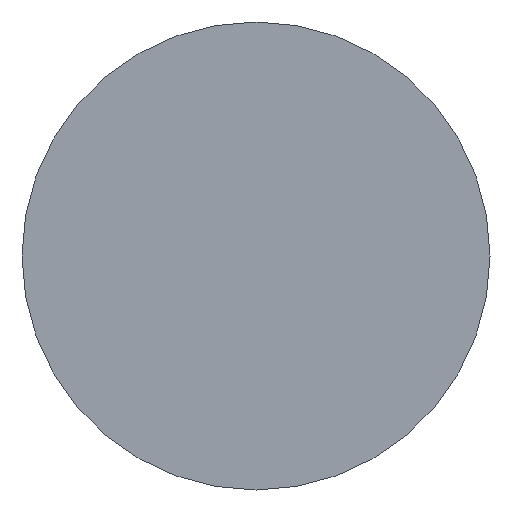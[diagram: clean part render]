
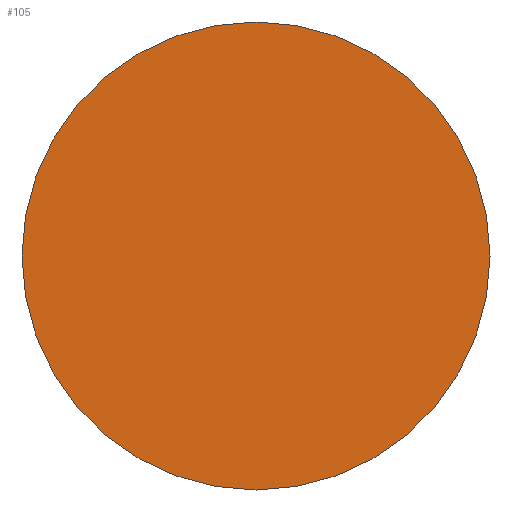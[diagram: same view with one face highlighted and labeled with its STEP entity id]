
A CAD part, front view. The second image highlights one B-rep face of the part: STEP entity #105.
In plain terms, the highlighted planar face has unit normal (0, -1, 0).
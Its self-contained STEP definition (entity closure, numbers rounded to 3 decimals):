
#22 = VERTEX_POINT('',#23);
#23 = CARTESIAN_POINT('',(19.,-13.2,36.));
#32 = CYLINDRICAL_SURFACE('',#33,19.);
#33 = AXIS2_PLACEMENT_3D('',#34,#35,#36);
#34 = CARTESIAN_POINT('',(0.,-13.2,36.));
#35 = DIRECTION('',(0.,-1.,-0.));
#36 = DIRECTION('',(1.,0.,0.));
#79 = EDGE_CURVE('',#22,#22,#80,.T.);
#80 = SURFACE_CURVE('',#81,(#86,#93),.PCURVE_S1.);
#81 = CIRCLE('',#82,19.);
#82 = AXIS2_PLACEMENT_3D('',#83,#84,#85);
#83 = CARTESIAN_POINT('',(0.,-13.2,36.));
#84 = DIRECTION('',(-0.,1.,0.));
#85 = DIRECTION('',(1.,0.,0.));
#86 = PCURVE('',#32,#87);
#87 = DEFINITIONAL_REPRESENTATION('',(#88),#92);
#88 = LINE('',#89,#90);
#89 = CARTESIAN_POINT('',(-0.,0.));
#90 = VECTOR('',#91,1.);
#91 = DIRECTION('',(-1.,0.));
#92 = ( GEOMETRIC_REPRESENTATION_CONTEXT(2) 
PARAMETRIC_REPRESENTATION_CONTEXT() REPRESENTATION_CONTEXT('2D SPACE',''
  ) );
#93 = PCURVE('',#94,#99);
#94 = PLANE('',#95);
#95 = AXIS2_PLACEMENT_3D('',#96,#97,#98);
#96 = CARTESIAN_POINT('',(0.,-13.2,36.));
#97 = DIRECTION('',(0.,1.,0.));
#98 = DIRECTION('',(1.,0.,0.));
#99 = DEFINITIONAL_REPRESENTATION('',(#100),#104);
#100 = CIRCLE('',#101,19.);
#101 = AXIS2_PLACEMENT_2D('',#102,#103);
#102 = CARTESIAN_POINT('',(0.,0.));
#103 = DIRECTION('',(1.,0.));
#104 = ( GEOMETRIC_REPRESENTATION_CONTEXT(2) 
PARAMETRIC_REPRESENTATION_CONTEXT() REPRESENTATION_CONTEXT('2D SPACE',''
  ) );
#105 = ADVANCED_FACE('',(#106),#94,.F.);
#106 = FACE_BOUND('',#107,.F.);
#107 = EDGE_LOOP('',(#108));
#108 = ORIENTED_EDGE('',*,*,#79,.T.);
